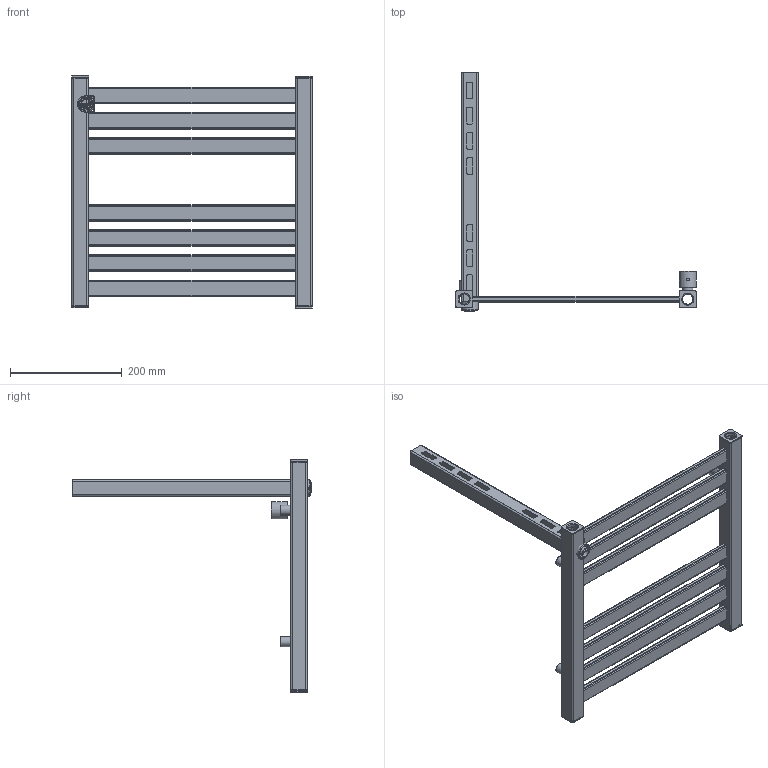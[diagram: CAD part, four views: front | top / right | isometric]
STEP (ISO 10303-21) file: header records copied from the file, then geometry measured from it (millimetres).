
FILE_DESCRIPTION( ( 'Unknown' ), '1' );
FILE_NAME( 'D:/Alplast sp. j/Witryna zespoBu - Projekty/Archiwum/Grzejniki Archiwum/Projekty/STANDARD/AK-EP/AK1-400EP.stp', 'Unknown', ( 'Unknown' ), ( 'Unknown' ), 'PSStep 10.1', 'Unknown', ' ' );
FILE_SCHEMA( ( 'AUTOMOTIVE_DESIGN { 1 0 10303 214 1 1 1 1 }' ) );
Length unit declared in the file: millimetre
Products named in the file (18): uchwyt plastikowy; Assem1; MOCOWANIE L40-01; MOCOWANIE FASOLKA; kana³  poziomy 30x10  400; kana³  poziomy 30x10  400-oa0; kana³  poziomy 30x10  400-oa1; kana³  poziomy 30x10  400-oa2; kana³  poziomy 30x10  400-oa3; kana³  poziomy 30x10  400-oa4; kana³  poziomy 30x10  400-oa5; AK1-EPEL; AK1-EPEL-oa6; zaslepka kwadrat otwor; zaslepka kwadrat otwor-oa7; zaslepka kwadrat otwor-oa8; zaslepka kwadrat otwor-oa9; mocowanie
Bounding box: 430 x 429 x 415.13 mm (x, y, z)
Volume: 874570.6 mm3; surface area: 1152936.6 mm2
Topology: 37 solids, 37 shells, 772 faces, 2043 edges, 1358 vertices
Faces by surface type: plane 419, cylinder 325, torus 16, cone 12
Full cylindrical faces by diameter (mm): 4.917 x3, 16 x5, 18 x5, 18.631 x8, 22 x3, 22.7 x3, 23 x11, 30 x3
Entity records: 14912 total; most frequent: CARTESIAN_POINT 2105, DIRECTION 2055, ORIENTED_EDGE 1902, EDGE_CURVE 951, AXIS2_PLACEMENT_3D 714, VERTEX_POINT 648, LINE 627, VECTOR 627
